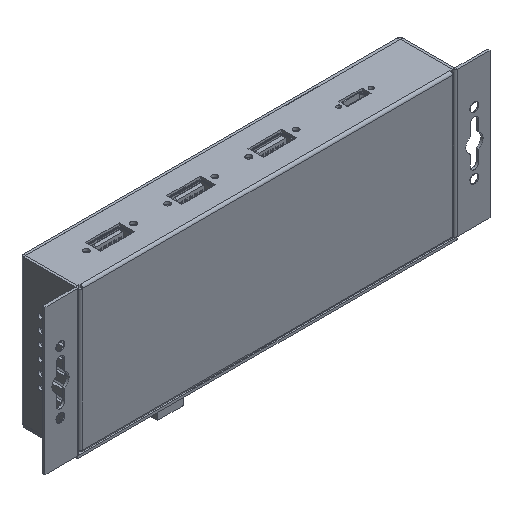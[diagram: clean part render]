
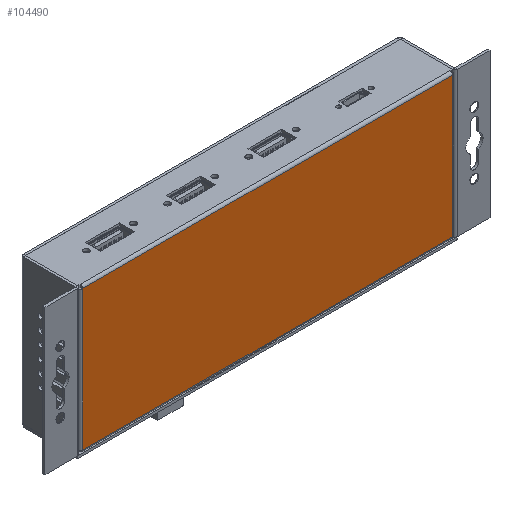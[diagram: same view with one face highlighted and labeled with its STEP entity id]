
A CAD part, isometric view. The second image highlights one B-rep face of the part: STEP entity #104490.
In plain terms, the highlighted planar face has unit normal (0, -1, 0).
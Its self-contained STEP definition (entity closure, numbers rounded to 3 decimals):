
#1721=PLANE('',#110318);
#7093=FACE_OUTER_BOUND('',#12607,.T.);
#12607=EDGE_LOOP('',(#72868,#72869,#72870,#72871));
#18632=LINE('',#147855,#31570);
#18650=LINE('',#147900,#31588);
#18655=LINE('',#147917,#31593);
#18656=LINE('',#147918,#31594);
#31570=VECTOR('',#118617,10.);
#31588=VECTOR('',#118667,10.);
#31593=VECTOR('',#118688,10.);
#31594=VECTOR('',#118689,10.);
#46653=VERTEX_POINT('',#147852);
#46654=VERTEX_POINT('',#147854);
#46665=VERTEX_POINT('',#147899);
#46669=VERTEX_POINT('',#147916);
#56891=EDGE_CURVE('',#46654,#46653,#18632,.T.);
#56914=EDGE_CURVE('',#46665,#46654,#18650,.T.);
#56923=EDGE_CURVE('',#46653,#46669,#18655,.T.);
#56924=EDGE_CURVE('',#46669,#46665,#18656,.T.);
#72868=ORIENTED_EDGE('',*,*,#56891,.T.);
#72869=ORIENTED_EDGE('',*,*,#56923,.T.);
#72870=ORIENTED_EDGE('',*,*,#56924,.T.);
#72871=ORIENTED_EDGE('',*,*,#56914,.T.);
#104490=ADVANCED_FACE('',(#7093),#1721,.F.);
#110318=AXIS2_PLACEMENT_3D('',#147915,#118686,#118687);
#118617=DIRECTION('',(1.,0.,0.));
#118667=DIRECTION('',(0.,0.,-1.));
#118686=DIRECTION('center_axis',(0.,1.,0.));
#118687=DIRECTION('ref_axis',(1.,0.,0.));
#118688=DIRECTION('',(0.,0.,1.));
#118689=DIRECTION('',(-1.,0.,0.));
#147852=CARTESIAN_POINT('',(146.39,-5.52,-56.09));
#147854=CARTESIAN_POINT('',(-2.39,-5.52,-56.09));
#147855=CARTESIAN_POINT('',(109.195,-5.52,-56.09));
#147899=CARTESIAN_POINT('',(-2.39,-5.52,0.24));
#147900=CARTESIAN_POINT('',(-2.39,-5.52,-42.513));
#147915=CARTESIAN_POINT('Origin',(72.,-5.52,-27.925));
#147916=CARTESIAN_POINT('',(146.39,-5.52,0.24));
#147917=CARTESIAN_POINT('',(146.39,-5.52,-13.843));
#147918=CARTESIAN_POINT('',(34.3,-5.52,0.24));
